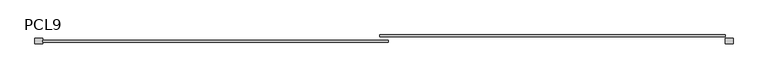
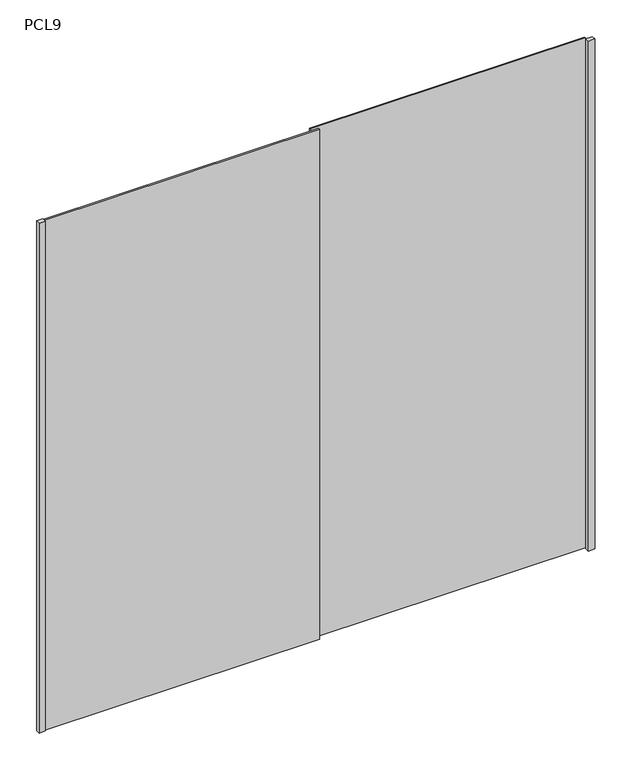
"""IFC4 building model written with IfcOpenShell, lengths in millimetres: furniture geometry, Puerta Closet corre 2 hojas : PCL9."""

from ifc_helpers import new_model, si_unit, origin, origin_with_axes, place, context, project, spatial, polyline, outline, extrude, source, transform, mapped, element, save


def pcl9_5e3e3e72(model_context):
    return source(origin(), model_context, "Body", "SweptSolid", [
        extrude(outline(polyline([(760.0, 80.0), (730.0, 80.0), (730.0, 100.0), (760.0, 100.0), (760.0, 80.0)])), origin_with_axes(), (0.0, 0.0, 1.0), 2520.0),
        extrude(outline(polyline([(730.0, 106.6666667), (-555.0, 106.6666667), (-555.0, 113.3333333), (730.0, 113.3333333), (730.0, 106.6666667)])), origin_with_axes(), (0.0, 0.0, 1.0), 2520.0),
        extrude(outline(polyline([(-525.0, 86.6666667), (-1810.0, 86.6666667), (-1810.0, 93.3333333), (-525.0, 93.3333333), (-525.0, 86.6666667)])), origin_with_axes(), (0.0, 0.0, 1.0), 2520.0),
        extrude(outline(polyline([(-1840.0, 80.0), (-1840.0, 100.0), (-1810.0, 100.0), (-1810.0, 80.0), (-1840.0, 80.0)])), origin_with_axes(), (0.0, 0.0, 1.0), 2520.0),
    ])


if __name__ == "__main__":
    model = new_model("IFC4")
    model_context = context("Model", 3, world=origin())
    ifc_project = project(units=[si_unit("LENGTHUNIT", "METRE", prefix="MILLI")], contexts=[model_context])
    site = spatial("IfcSite", under=ifc_project)
    building = spatial("IfcBuilding", under=site)
    placement = place(None, origin())
    pcl9_shape = pcl9_5e3e3e72(model_context)
    element("IfcFurniture", 1, ObjectType="Puerta Closet corre 2 hojas : PCL9", at=placement, inside=building, context=model_context, shape_type="MappedRepresentation", body=[
        mapped(pcl9_shape, transform((0.0, 0.0, 0.0), x_axis=(1.0, 0.0, 0.0), y_axis=(0.0, 1.0, 0.0), z_axis=(0.0, 0.0, 1.0))),
    ])
    save(model, "model.ifc")
